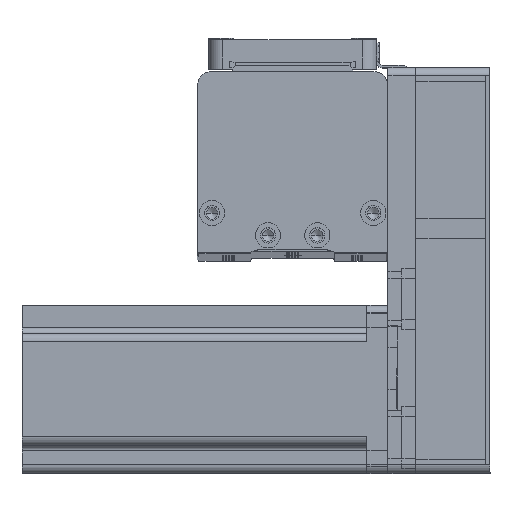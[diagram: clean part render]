
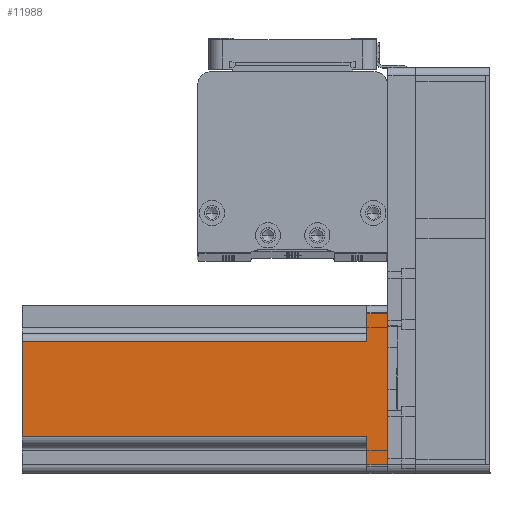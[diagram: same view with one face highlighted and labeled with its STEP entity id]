
A CAD part, top view. The second image highlights one B-rep face of the part: STEP entity #11988.
In plain terms, the highlighted planar face has unit normal (0, 0, 1) as drawn and (0, 1, 0) by its records, which use the part's own axes.
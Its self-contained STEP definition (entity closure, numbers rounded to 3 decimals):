
#123 = LINE ( 'NONE', #51924, #42361 ) ;
#1000 = LINE ( 'NONE', #38424, #41952 ) ;
#2862 = DIRECTION ( 'NONE',  ( 0., 0., -1. ) ) ;
#3140 = CARTESIAN_POINT ( 'NONE',  ( 30., 30., 0. ) ) ;
#3175 = VERTEX_POINT ( 'NONE', #21225 ) ;
#4424 = CARTESIAN_POINT ( 'NONE',  ( 20., 30., 7.5 ) ) ;
#4486 = EDGE_CURVE ( 'NONE', #28716, #49402, #1000, .T. ) ;
#4948 = CARTESIAN_POINT ( 'NONE',  ( -17., 30., 130.7 ) ) ;
#5364 = LINE ( 'NONE', #3140, #27150 ) ;
#6109 = FACE_OUTER_BOUND ( 'NONE', #23553, .T. ) ;
#7020 = ORIENTED_EDGE ( 'NONE', *, *, #46842, .F. ) ;
#8509 = ORIENTED_EDGE ( 'NONE', *, *, #23051, .T. ) ;
#9117 = CARTESIAN_POINT ( 'NONE',  ( 17., 30., 130.7 ) ) ;
#9493 = VERTEX_POINT ( 'NONE', #23497 ) ;
#11805 = DIRECTION ( 'NONE',  ( -1., 0., 0. ) ) ;
#11988 = ADVANCED_FACE ( 'NONE', ( #6109 ), #49661, .F. ) ;
#12101 = LINE ( 'NONE', #15952, #43495 ) ;
#12525 = VERTEX_POINT ( 'NONE', #42294 ) ;
#12630 = DIRECTION ( 'NONE',  ( 0., 0., -1. ) ) ;
#15952 = CARTESIAN_POINT ( 'NONE',  ( 30., 30., 130.7 ) ) ;
#16054 = LINE ( 'NONE', #4424, #46169 ) ;
#17336 = VECTOR ( 'NONE', #36684, 1000. ) ;
#17453 = AXIS2_PLACEMENT_3D ( 'NONE', #45755, #21243, #49848 ) ;
#18218 = VERTEX_POINT ( 'NONE', #4948 ) ;
#20006 = EDGE_CURVE ( 'NONE', #3175, #28716, #5364, .T. ) ;
#20521 = ORIENTED_EDGE ( 'NONE', *, *, #46836, .T. ) ;
#21225 = CARTESIAN_POINT ( 'NONE',  ( 27., 30., 0. ) ) ;
#21243 = DIRECTION ( 'NONE',  ( 0., -1., 0. ) ) ;
#22888 = EDGE_CURVE ( 'NONE', #12525, #3175, #123, .T. ) ;
#23051 = EDGE_CURVE ( 'NONE', #52063, #18218, #51290, .T. ) ;
#23291 = ORIENTED_EDGE ( 'NONE', *, *, #39890, .T. ) ;
#23497 = CARTESIAN_POINT ( 'NONE',  ( 17., 30., 7.5 ) ) ;
#23553 = EDGE_LOOP ( 'NONE', ( #23291, #8509, #32478, #20521, #7020, #51995, #39645, #27800 ) ) ;
#24436 = CARTESIAN_POINT ( 'NONE',  ( -27., 30., 7.5 ) ) ;
#26059 = VERTEX_POINT ( 'NONE', #9117 ) ;
#26946 = LINE ( 'NONE', #37158, #37820 ) ;
#27150 = VECTOR ( 'NONE', #31829, 1000. ) ;
#27800 = ORIENTED_EDGE ( 'NONE', *, *, #4486, .T. ) ;
#28025 = CARTESIAN_POINT ( 'NONE',  ( -20., 30., 7.5 ) ) ;
#28466 = CARTESIAN_POINT ( 'NONE',  ( -17., 30., 130.7 ) ) ;
#28716 = VERTEX_POINT ( 'NONE', #40862 ) ;
#28942 = DIRECTION ( 'NONE',  ( -1., 0., 0. ) ) ;
#31829 = DIRECTION ( 'NONE',  ( -1., 0., 0. ) ) ;
#32478 = ORIENTED_EDGE ( 'NONE', *, *, #42435, .F. ) ;
#32839 = VECTOR ( 'NONE', #44314, 1000. ) ;
#34130 = LINE ( 'NONE', #28025, #32839 ) ;
#36684 = DIRECTION ( 'NONE',  ( 0., 0., 1. ) ) ;
#37158 = CARTESIAN_POINT ( 'NONE',  ( 17., 30., 130.7 ) ) ;
#37820 = VECTOR ( 'NONE', #12630, 1000. ) ;
#38424 = CARTESIAN_POINT ( 'NONE',  ( -27., 30., 130.7 ) ) ;
#39167 = CARTESIAN_POINT ( 'NONE',  ( -17., 30., 7.5 ) ) ;
#39645 = ORIENTED_EDGE ( 'NONE', *, *, #20006, .T. ) ;
#39890 = EDGE_CURVE ( 'NONE', #49402, #52063, #34130, .T. ) ;
#40862 = CARTESIAN_POINT ( 'NONE',  ( -27., 30., 0. ) ) ;
#41952 = VECTOR ( 'NONE', #42564, 1000. ) ;
#42294 = CARTESIAN_POINT ( 'NONE',  ( 27., 30., 7.5 ) ) ;
#42361 = VECTOR ( 'NONE', #2862, 1000. ) ;
#42435 = EDGE_CURVE ( 'NONE', #26059, #18218, #12101, .T. ) ;
#42564 = DIRECTION ( 'NONE',  ( 0., 0., 1. ) ) ;
#43495 = VECTOR ( 'NONE', #11805, 1000. ) ;
#44314 = DIRECTION ( 'NONE',  ( 1., 0., 0. ) ) ;
#45755 = CARTESIAN_POINT ( 'NONE',  ( 30., 30., 130.7 ) ) ;
#46169 = VECTOR ( 'NONE', #28942, 1000. ) ;
#46836 = EDGE_CURVE ( 'NONE', #26059, #9493, #26946, .T. ) ;
#46842 = EDGE_CURVE ( 'NONE', #12525, #9493, #16054, .T. ) ;
#49402 = VERTEX_POINT ( 'NONE', #24436 ) ;
#49661 = PLANE ( 'NONE',  #17453 ) ;
#49848 = DIRECTION ( 'NONE',  ( 1., 0., 0. ) ) ;
#51290 = LINE ( 'NONE', #28466, #17336 ) ;
#51924 = CARTESIAN_POINT ( 'NONE',  ( 27., 30., 130.7 ) ) ;
#51995 = ORIENTED_EDGE ( 'NONE', *, *, #22888, .T. ) ;
#52063 = VERTEX_POINT ( 'NONE', #39167 ) ;
